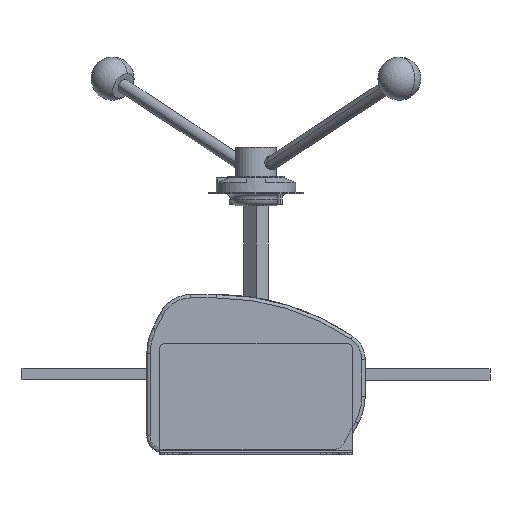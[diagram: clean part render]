
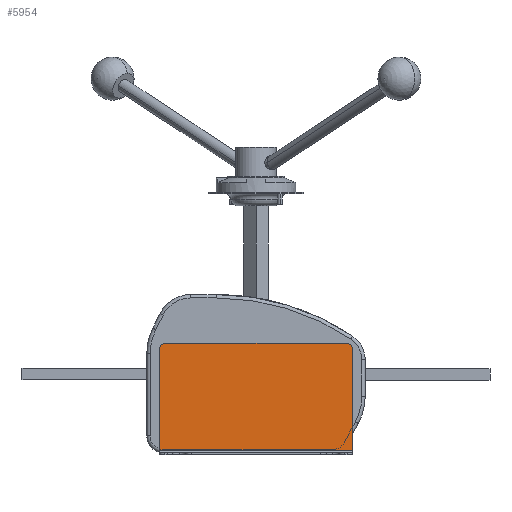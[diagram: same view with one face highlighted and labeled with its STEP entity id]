
A CAD part, left-side view. The second image highlights one B-rep face of the part: STEP entity #5954.
In plain terms, the highlighted planar face has unit normal (-1, 0, 0).
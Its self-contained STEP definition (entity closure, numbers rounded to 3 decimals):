
#157 = VERTEX_POINT ( 'NONE', #9770 ) ;
#367 = DIRECTION ( 'NONE',  ( -1., 0., 0. ) ) ;
#534 = LINE ( 'NONE', #3727, #8055 ) ;
#1005 = DIRECTION ( 'NONE',  ( -1., 0., 0. ) ) ;
#1011 = PLANE ( 'NONE',  #12187 ) ;
#1264 = CARTESIAN_POINT ( 'NONE',  ( -366.42, -85., -67. ) ) ;
#1298 = ORIENTED_EDGE ( 'NONE', *, *, #6151, .F. ) ;
#1478 = LINE ( 'NONE', #10111, #12330 ) ;
#1970 = CARTESIAN_POINT ( 'NONE',  ( -366.42, -85., -67. ) ) ;
#2451 = ORIENTED_EDGE ( 'NONE', *, *, #12664, .T. ) ;
#2796 = EDGE_LOOP ( 'NONE', ( #8322, #2451, #14167, #13680, #1298, #8075 ) ) ;
#3367 = CARTESIAN_POINT ( 'NONE',  ( -366.42, -85., -67. ) ) ;
#3727 = CARTESIAN_POINT ( 'NONE',  ( -366.42, -85., 27. ) ) ;
#3844 = AXIS2_PLACEMENT_3D ( 'NONE', #11541, #367, #12871 ) ;
#4491 = CIRCLE ( 'NONE', #13177, 5. ) ;
#5954 = ADVANCED_FACE ( 'NONE', ( #14652 ), #1011, .T. ) ;
#6151 = EDGE_CURVE ( 'NONE', #14446, #14559, #1478, .T. ) ;
#6838 = VERTEX_POINT ( 'NONE', #1264 ) ;
#7261 = DIRECTION ( 'NONE',  ( 0., 0., 1. ) ) ;
#8055 = VECTOR ( 'NONE', #14793, 1000. ) ;
#8075 = ORIENTED_EDGE ( 'NONE', *, *, #8994, .F. ) ;
#8162 = DIRECTION ( 'NONE',  ( 0., 0., 1. ) ) ;
#8322 = ORIENTED_EDGE ( 'NONE', *, *, #15247, .T. ) ;
#8407 = CARTESIAN_POINT ( 'NONE',  ( -366.42, -80., 22. ) ) ;
#8994 = EDGE_CURVE ( 'NONE', #6838, #14446, #11480, .T. ) ;
#9502 = VECTOR ( 'NONE', #8162, 1000. ) ;
#9770 = CARTESIAN_POINT ( 'NONE',  ( -366.42, 80., 27. ) ) ;
#9848 = VERTEX_POINT ( 'NONE', #16122 ) ;
#9941 = EDGE_CURVE ( 'NONE', #157, #14559, #11463, .T. ) ;
#10111 = CARTESIAN_POINT ( 'NONE',  ( -366.42, 85., -67. ) ) ;
#10446 = CARTESIAN_POINT ( 'NONE',  ( -366.42, 85., 22. ) ) ;
#10500 = CARTESIAN_POINT ( 'NONE',  ( -366.42, -85., 22. ) ) ;
#10737 = DIRECTION ( 'NONE',  ( 0., 1., 0. ) ) ;
#11463 = CIRCLE ( 'NONE', #3844, 5. ) ;
#11480 = LINE ( 'NONE', #1970, #13817 ) ;
#11541 = CARTESIAN_POINT ( 'NONE',  ( -366.42, 80., 22. ) ) ;
#12187 = AXIS2_PLACEMENT_3D ( 'NONE', #16068, #13547, #7261 ) ;
#12330 = VECTOR ( 'NONE', #13942, 1000. ) ;
#12664 = EDGE_CURVE ( 'NONE', #15869, #9848, #4491, .T. ) ;
#12871 = DIRECTION ( 'NONE',  ( 0., 0., 1. ) ) ;
#13177 = AXIS2_PLACEMENT_3D ( 'NONE', #8407, #1005, #15900 ) ;
#13547 = DIRECTION ( 'NONE',  ( -1., 0., 0. ) ) ;
#13680 = ORIENTED_EDGE ( 'NONE', *, *, #9941, .T. ) ;
#13817 = VECTOR ( 'NONE', #10737, 1000. ) ;
#13942 = DIRECTION ( 'NONE',  ( 0., 0., 1. ) ) ;
#14167 = ORIENTED_EDGE ( 'NONE', *, *, #14330, .T. ) ;
#14330 = EDGE_CURVE ( 'NONE', #9848, #157, #534, .T. ) ;
#14446 = VERTEX_POINT ( 'NONE', #15178 ) ;
#14559 = VERTEX_POINT ( 'NONE', #10446 ) ;
#14652 = FACE_OUTER_BOUND ( 'NONE', #2796, .T. ) ;
#14793 = DIRECTION ( 'NONE',  ( 0., 1., 0. ) ) ;
#15178 = CARTESIAN_POINT ( 'NONE',  ( -366.42, 85., -67. ) ) ;
#15192 = LINE ( 'NONE', #3367, #9502 ) ;
#15247 = EDGE_CURVE ( 'NONE', #6838, #15869, #15192, .T. ) ;
#15869 = VERTEX_POINT ( 'NONE', #10500 ) ;
#15900 = DIRECTION ( 'NONE',  ( 0., 0., 1. ) ) ;
#16068 = CARTESIAN_POINT ( 'NONE',  ( -366.42, -85., -67. ) ) ;
#16122 = CARTESIAN_POINT ( 'NONE',  ( -366.42, -80., 27. ) ) ;
